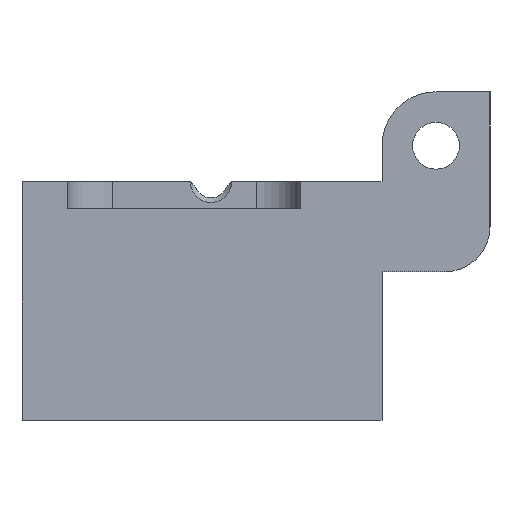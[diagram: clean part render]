
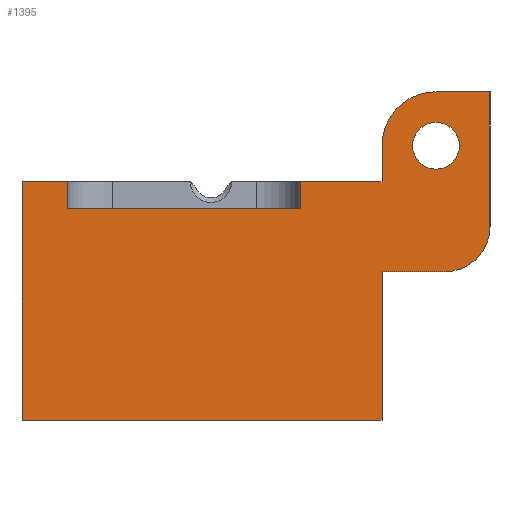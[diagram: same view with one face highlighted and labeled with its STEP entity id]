
A CAD part, left-side view. The second image highlights one B-rep face of the part: STEP entity #1395.
In plain terms, the highlighted planar face has unit normal (-1, 0, 0).
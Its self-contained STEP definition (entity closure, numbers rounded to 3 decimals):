
#14 = CARTESIAN_POINT ( 'NONE',  ( -20., -20., -10. ) ) ;
#22 = DIRECTION ( 'NONE',  ( 0., 1., 0. ) ) ;
#36 = EDGE_CURVE ( 'NONE', #466, #2016, #445, .T. ) ;
#70 = VECTOR ( 'NONE', #830, 1000. ) ;
#80 = ORIENTED_EDGE ( 'NONE', *, *, #36, .T. ) ;
#91 = EDGE_CURVE ( 'NONE', #956, #1754, #533, .T. ) ;
#123 = DIRECTION ( 'NONE',  ( -1., 0., 0. ) ) ;
#125 = EDGE_CURVE ( 'NONE', #1188, #956, #398, .T. ) ;
#170 = FACE_OUTER_BOUND ( 'NONE', #1976, .T. ) ;
#197 = ORIENTED_EDGE ( 'NONE', *, *, #1279, .F. ) ;
#205 = CARTESIAN_POINT ( 'NONE',  ( -20., -20., 10. ) ) ;
#208 = VECTOR ( 'NONE', #1269, 1000. ) ;
#225 = EDGE_CURVE ( 'NONE', #1734, #1188, #338, .T. ) ;
#228 = VECTOR ( 'NONE', #912, 1000. ) ;
#232 = LINE ( 'NONE', #1332, #70 ) ;
#249 = VERTEX_POINT ( 'NONE', #1311 ) ;
#276 = CARTESIAN_POINT ( 'NONE',  ( -20., -32., -5. ) ) ;
#295 = DIRECTION ( 'NONE',  ( 0., -1., 0. ) ) ;
#333 = LINE ( 'NONE', #1520, #955 ) ;
#338 = CIRCLE ( 'NONE', #1002, 5. ) ;
#340 = EDGE_CURVE ( 'NONE', #696, #645, #232, .T. ) ;
#382 = ORIENTED_EDGE ( 'NONE', *, *, #502, .T. ) ;
#387 = DIRECTION ( 'NONE',  ( 0., -1., 0. ) ) ;
#398 = LINE ( 'NONE', #1688, #1650 ) ;
#425 = CARTESIAN_POINT ( 'NONE',  ( -20., -32., 10. ) ) ;
#444 = DIRECTION ( 'NONE',  ( 0., 0., -1. ) ) ;
#445 = CIRCLE ( 'NONE', #1834, 2.6 ) ;
#446 = DIRECTION ( 'NONE',  ( 0., 0., 1. ) ) ;
#460 = ORIENTED_EDGE ( 'NONE', *, *, #510, .T. ) ;
#466 = VERTEX_POINT ( 'NONE', #1205 ) ;
#484 = ORIENTED_EDGE ( 'NONE', *, *, #2097, .F. ) ;
#501 = VECTOR ( 'NONE', #22, 1000. ) ;
#502 = EDGE_CURVE ( 'NONE', #1441, #1734, #1867, .T. ) ;
#510 = EDGE_CURVE ( 'NONE', #2016, #466, #1460, .T. ) ;
#520 = CIRCLE ( 'NONE', #1855, 6. ) ;
#533 = LINE ( 'NONE', #907, #501 ) ;
#559 = DIRECTION ( 'NONE',  ( 0., -1., 0. ) ) ;
#567 = CARTESIAN_POINT ( 'NONE',  ( -20., 20., 0. ) ) ;
#568 = LINE ( 'NONE', #2063, #1660 ) ;
#638 = VERTEX_POINT ( 'NONE', #1913 ) ;
#645 = VERTEX_POINT ( 'NONE', #749 ) ;
#660 = CARTESIAN_POINT ( 'NONE',  ( -20., 20., -26.5 ) ) ;
#683 = CARTESIAN_POINT ( 'NONE',  ( -20., -26., 6.6 ) ) ;
#696 = VERTEX_POINT ( 'NONE', #894 ) ;
#701 = EDGE_CURVE ( 'NONE', #1721, #922, #1345, .T. ) ;
#712 = DIRECTION ( 'NONE',  ( 0., -1., 0. ) ) ;
#742 = VERTEX_POINT ( 'NONE', #2105 ) ;
#746 = DIRECTION ( 'NONE',  ( 0., 0., 1. ) ) ;
#749 = CARTESIAN_POINT ( 'NONE',  ( -20., 15., 0. ) ) ;
#793 = VECTOR ( 'NONE', #1343, 1000. ) ;
#824 = CARTESIAN_POINT ( 'NONE',  ( -20., 20., -26.5 ) ) ;
#830 = DIRECTION ( 'NONE',  ( 0., -1., 0. ) ) ;
#835 = DIRECTION ( 'NONE',  ( -1., 0., 0. ) ) ;
#862 = CARTESIAN_POINT ( 'NONE',  ( -20., -20., -10. ) ) ;
#871 = DIRECTION ( 'NONE',  ( 1., 0., 0. ) ) ;
#882 = EDGE_CURVE ( 'NONE', #1493, #638, #2176, .T. ) ;
#889 = VECTOR ( 'NONE', #1898, 1000. ) ;
#894 = CARTESIAN_POINT ( 'NONE',  ( -20., 20., 0. ) ) ;
#907 = CARTESIAN_POINT ( 'NONE',  ( -20., -32., 10. ) ) ;
#912 = DIRECTION ( 'NONE',  ( 0., -1., 0. ) ) ;
#922 = VERTEX_POINT ( 'NONE', #2087 ) ;
#941 = ORIENTED_EDGE ( 'NONE', *, *, #701, .T. ) ;
#955 = VECTOR ( 'NONE', #746, 1000. ) ;
#956 = VERTEX_POINT ( 'NONE', #425 ) ;
#976 = ORIENTED_EDGE ( 'NONE', *, *, #125, .T. ) ;
#1001 = ORIENTED_EDGE ( 'NONE', *, *, #1362, .F. ) ;
#1002 = AXIS2_PLACEMENT_3D ( 'NONE', #1160, #123, #295 ) ;
#1029 = VERTEX_POINT ( 'NONE', #1615 ) ;
#1052 = CARTESIAN_POINT ( 'NONE',  ( -20., -27., -10. ) ) ;
#1089 = ORIENTED_EDGE ( 'NONE', *, *, #882, .T. ) ;
#1095 = ORIENTED_EDGE ( 'NONE', *, *, #1811, .T. ) ;
#1110 = ORIENTED_EDGE ( 'NONE', *, *, #2043, .F. ) ;
#1160 = CARTESIAN_POINT ( 'NONE',  ( -20., -27., -5. ) ) ;
#1182 = LINE ( 'NONE', #567, #208 ) ;
#1188 = VERTEX_POINT ( 'NONE', #276 ) ;
#1190 = CARTESIAN_POINT ( 'NONE',  ( -20., 15., -3. ) ) ;
#1205 = CARTESIAN_POINT ( 'NONE',  ( -20., -26., 1.4 ) ) ;
#1209 = EDGE_LOOP ( 'NONE', ( #80, #460 ) ) ;
#1248 = DIRECTION ( 'NONE',  ( 0., 0., -1. ) ) ;
#1269 = DIRECTION ( 'NONE',  ( 0., -1., 0. ) ) ;
#1279 = EDGE_CURVE ( 'NONE', #1029, #742, #2130, .T. ) ;
#1310 = VECTOR ( 'NONE', #387, 1000. ) ;
#1311 = CARTESIAN_POINT ( 'NONE',  ( -20., -11., 0. ) ) ;
#1320 = DIRECTION ( 'NONE',  ( 1., 0., 0. ) ) ;
#1330 = FACE_BOUND ( 'NONE', #1209, .T. ) ;
#1332 = CARTESIAN_POINT ( 'NONE',  ( -20., 20., 0. ) ) ;
#1343 = DIRECTION ( 'NONE',  ( 0., 0., 1. ) ) ;
#1345 = LINE ( 'NONE', #205, #1662 ) ;
#1362 = EDGE_CURVE ( 'NONE', #1493, #696, #2077, .T. ) ;
#1377 = EDGE_CURVE ( 'NONE', #1029, #645, #333, .T. ) ;
#1380 = CARTESIAN_POINT ( 'NONE',  ( -20., -26., 10. ) ) ;
#1395 = ADVANCED_FACE ( 'NONE', ( #1330, #170 ), #1868, .T. ) ;
#1441 = VERTEX_POINT ( 'NONE', #14 ) ;
#1459 = AXIS2_PLACEMENT_3D ( 'NONE', #660, #835, #559 ) ;
#1460 = CIRCLE ( 'NONE', #1880, 2.6 ) ;
#1475 = ORIENTED_EDGE ( 'NONE', *, *, #340, .F. ) ;
#1493 = VERTEX_POINT ( 'NONE', #1988 ) ;
#1520 = CARTESIAN_POINT ( 'NONE',  ( -20., 15., -3. ) ) ;
#1546 = LINE ( 'NONE', #1638, #889 ) ;
#1571 = DIRECTION ( 'NONE',  ( -1., 0., 0. ) ) ;
#1587 = EDGE_CURVE ( 'NONE', #638, #1441, #568, .T. ) ;
#1611 = CARTESIAN_POINT ( 'NONE',  ( -20., -20., 4. ) ) ;
#1615 = CARTESIAN_POINT ( 'NONE',  ( -20., 15., -3. ) ) ;
#1638 = CARTESIAN_POINT ( 'NONE',  ( -20., -11., -3. ) ) ;
#1650 = VECTOR ( 'NONE', #446, 1000. ) ;
#1660 = VECTOR ( 'NONE', #1776, 1000. ) ;
#1662 = VECTOR ( 'NONE', #1248, 1000. ) ;
#1688 = CARTESIAN_POINT ( 'NONE',  ( -20., -32., -10. ) ) ;
#1721 = VERTEX_POINT ( 'NONE', #1611 ) ;
#1734 = VERTEX_POINT ( 'NONE', #1052 ) ;
#1736 = CARTESIAN_POINT ( 'NONE',  ( -20., -26., 4. ) ) ;
#1742 = DIRECTION ( 'NONE',  ( 0., -1., 0. ) ) ;
#1754 = VERTEX_POINT ( 'NONE', #1380 ) ;
#1776 = DIRECTION ( 'NONE',  ( 0., 0., 1. ) ) ;
#1777 = ORIENTED_EDGE ( 'NONE', *, *, #91, .T. ) ;
#1811 = EDGE_CURVE ( 'NONE', #1754, #1721, #520, .T. ) ;
#1834 = AXIS2_PLACEMENT_3D ( 'NONE', #2111, #1320, #444 ) ;
#1851 = ORIENTED_EDGE ( 'NONE', *, *, #225, .T. ) ;
#1855 = AXIS2_PLACEMENT_3D ( 'NONE', #1736, #1571, #1742 ) ;
#1867 = LINE ( 'NONE', #862, #1959 ) ;
#1868 = PLANE ( 'NONE',  #1459 ) ;
#1869 = ORIENTED_EDGE ( 'NONE', *, *, #1377, .T. ) ;
#1880 = AXIS2_PLACEMENT_3D ( 'NONE', #1890, #871, #2053 ) ;
#1890 = CARTESIAN_POINT ( 'NONE',  ( -20., -26., 4. ) ) ;
#1894 = ORIENTED_EDGE ( 'NONE', *, *, #1587, .T. ) ;
#1898 = DIRECTION ( 'NONE',  ( 0., 0., 1. ) ) ;
#1913 = CARTESIAN_POINT ( 'NONE',  ( -20., -20., -26.5 ) ) ;
#1959 = VECTOR ( 'NONE', #712, 1000. ) ;
#1976 = EDGE_LOOP ( 'NONE', ( #1777, #1095, #941, #1110, #484, #197, #1869, #1475, #1001, #1089, #1894, #382, #1851, #976 ) ) ;
#1988 = CARTESIAN_POINT ( 'NONE',  ( -20., 20., -26.5 ) ) ;
#2016 = VERTEX_POINT ( 'NONE', #683 ) ;
#2043 = EDGE_CURVE ( 'NONE', #249, #922, #1182, .T. ) ;
#2053 = DIRECTION ( 'NONE',  ( 0., 0., -1. ) ) ;
#2063 = CARTESIAN_POINT ( 'NONE',  ( -20., -20., -26.5 ) ) ;
#2077 = LINE ( 'NONE', #824, #793 ) ;
#2082 = CARTESIAN_POINT ( 'NONE',  ( -20., 20., -26.5 ) ) ;
#2087 = CARTESIAN_POINT ( 'NONE',  ( -20., -20., 0. ) ) ;
#2097 = EDGE_CURVE ( 'NONE', #742, #249, #1546, .T. ) ;
#2105 = CARTESIAN_POINT ( 'NONE',  ( -20., -11., -3. ) ) ;
#2111 = CARTESIAN_POINT ( 'NONE',  ( -20., -26., 4. ) ) ;
#2130 = LINE ( 'NONE', #1190, #1310 ) ;
#2176 = LINE ( 'NONE', #2082, #228 ) ;
